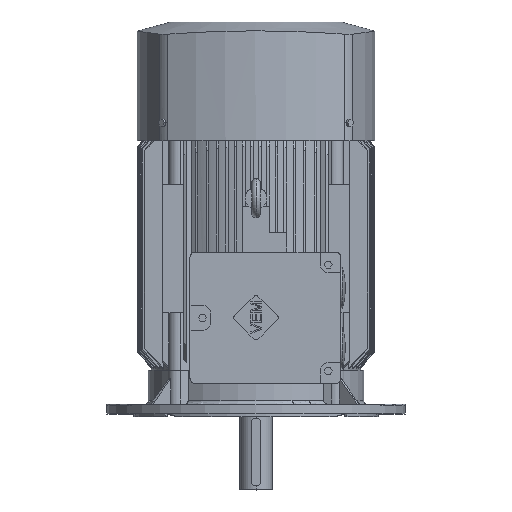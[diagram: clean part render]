
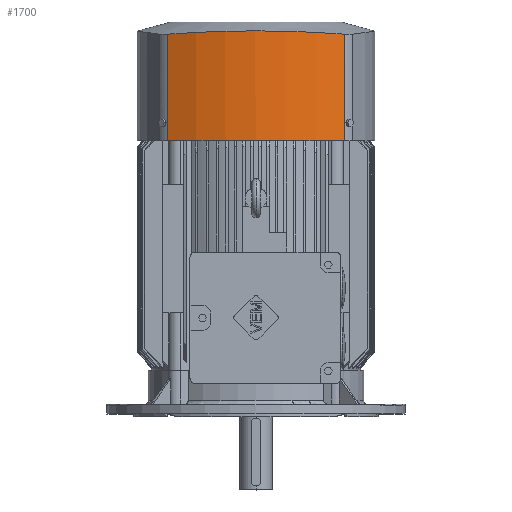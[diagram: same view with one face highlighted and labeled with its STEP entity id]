
A CAD part, top view. The second image highlights one B-rep face of the part: STEP entity #1700.
In plain terms, the highlighted cylindrical face has radius 346.5 mm (diameter 693 mm), a partial arc.
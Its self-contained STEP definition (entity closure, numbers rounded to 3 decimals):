
#1700=ADVANCED_FACE('',(#3670),#3671,.T.);
#3670=FACE_OUTER_BOUND('',#5950,.T.);
#3671=CYLINDRICAL_SURFACE('',#5951,346.5);
#5950=EDGE_LOOP('',(#11192,#11193,#11194,#11195));
#5951=AXIS2_PLACEMENT_3D('',#11196,#11197,#11198);
#11192=ORIENTED_EDGE('',*,*,#14244,.T.);
#11193=ORIENTED_EDGE('',*,*,#15956,.F.);
#11194=ORIENTED_EDGE('',*,*,#15957,.T.);
#11195=ORIENTED_EDGE('',*,*,#15953,.T.);
#11196=CARTESIAN_POINT('',(0.,423.5,-127.5));
#11197=DIRECTION('',(0.0,1.0,0.0));
#11198=DIRECTION('',(-0.469,0.0,0.883));
#14244=EDGE_CURVE('',#17245,#17243,#17246,.T.);
#15953=EDGE_CURVE('',#19805,#17245,#19806,.T.);
#15956=EDGE_CURVE('',#19809,#17243,#19810,.T.);
#15957=EDGE_CURVE('',#19809,#19805,#19811,.T.);
#17243=VERTEX_POINT('',#22079);
#17245=VERTEX_POINT('',#22090);
#17246=B_SPLINE_CURVE_WITH_KNOTS('',3,(#22091,#22092,#22093,#22094,#22095,#22096,#22097,#22098,#22099,#22100,#22101,#22102,#22103,#22104,#22105,#22106,#22107,#22108,#22109,#22110,#22111,#22112,#22113,#22114,#22115,#22116,#22117,#22118,#22119,#22120,#22121,#22122),.UNSPECIFIED.,.F.,.F.,(4,2,2,2,2,2,2,2,2,2,2,2,2,2,2,4),(278.969,308.468,331.112,353.756,376.4,399.044,421.688,444.331,466.975,489.619,513.283,536.947,560.611,584.274,607.938,631.602),.UNSPECIFIED.);
#19805=VERTEX_POINT('',#31002);
#19806=LINE('',#31003,#31004);
#19809=VERTEX_POINT('',#31007);
#19810=LINE('',#31008,#31009);
#19811=CIRCLE('',#31010,346.5);
#22079=CARTESIAN_POINT('',(-162.672,619.503,178.441));
#22090=CARTESIAN_POINT('',(162.672,619.503,178.441));
#22091=CARTESIAN_POINT('',(186.988,617.52,164.215));
#22092=CARTESIAN_POINT('',(178.471,618.27,169.675));
#22093=CARTESIAN_POINT('',(169.82,618.971,174.691));
#22094=CARTESIAN_POINT('',(154.466,620.114,182.757));
#22095=CARTESIAN_POINT('',(147.54,620.596,186.116));
#22096=CARTESIAN_POINT('',(133.259,621.514,192.446));
#22097=CARTESIAN_POINT('',(125.904,621.949,195.416));
#22098=CARTESIAN_POINT('',(110.86,622.759,200.885));
#22099=CARTESIAN_POINT('',(103.17,623.133,203.384));
#22100=CARTESIAN_POINT('',(87.563,623.806,207.852));
#22101=CARTESIAN_POINT('',(79.644,624.106,209.821));
#22102=CARTESIAN_POINT('',(63.689,624.622,213.194));
#22103=CARTESIAN_POINT('',(55.649,624.838,214.599));
#22104=CARTESIAN_POINT('',(39.56,625.183,216.83));
#22105=CARTESIAN_POINT('',(31.51,625.312,217.657));
#22106=CARTESIAN_POINT('',(15.523,625.481,218.745));
#22107=CARTESIAN_POINT('',(7.584,625.522,219.005));
#22108=CARTESIAN_POINT('',(-8.062,625.52,218.995));
#22109=CARTESIAN_POINT('',(-15.769,625.478,218.723));
#22110=CARTESIAN_POINT('',(-31.169,625.316,217.685));
#22111=CARTESIAN_POINT('',(-39.184,625.19,216.874));
#22112=CARTESIAN_POINT('',(-55.368,624.845,214.645));
#22113=CARTESIAN_POINT('',(-63.537,624.627,213.228));
#22114=CARTESIAN_POINT('',(-79.895,624.097,209.767));
#22115=CARTESIAN_POINT('',(-88.085,623.787,207.724));
#22116=CARTESIAN_POINT('',(-104.36,623.078,203.019));
#22117=CARTESIAN_POINT('',(-112.445,622.68,200.358));
#22118=CARTESIAN_POINT('',(-128.388,621.807,194.449));
#22119=CARTESIAN_POINT('',(-136.252,621.332,191.2));
#22120=CARTESIAN_POINT('',(-151.65,620.316,184.167));
#22121=CARTESIAN_POINT('',(-159.184,619.776,180.384));
#22122=CARTESIAN_POINT('',(-166.505,619.211,176.372));
#31002=CARTESIAN_POINT('',(162.672,423.5,178.441));
#31003=CARTESIAN_POINT('',(162.672,423.5,178.441));
#31004=VECTOR('',#35397,1.0);
#31007=CARTESIAN_POINT('',(-162.672,423.5,178.441));
#31008=CARTESIAN_POINT('',(-162.672,423.5,178.441));
#31009=VECTOR('',#35401,1.0);
#31010=AXIS2_PLACEMENT_3D('',#35402,#35403,#35404);
#35397=DIRECTION('',(0.0,1.0,0.0));
#35401=DIRECTION('',(0.0,1.0,0.0));
#35402=CARTESIAN_POINT('',(0.,423.5,-127.5));
#35403=DIRECTION('',(0.0,1.0,0.0));
#35404=DIRECTION('',(-0.469,0.0,0.883));
